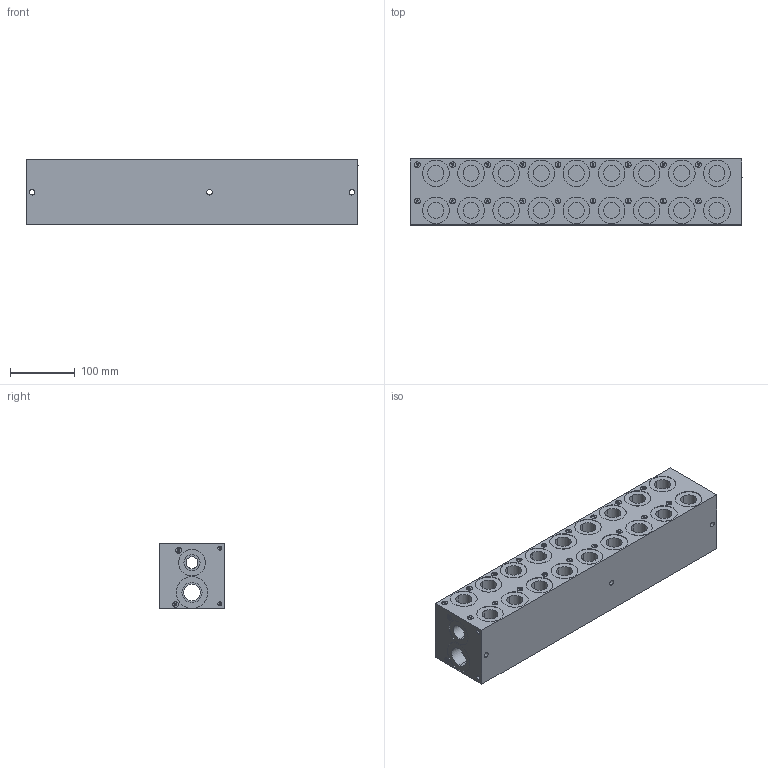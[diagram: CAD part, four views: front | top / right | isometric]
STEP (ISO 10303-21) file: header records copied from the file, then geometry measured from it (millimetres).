
FILE_DESCRIPTION (( 'STEP AP203' ), '1' );
FILE_NAME ('BMR-AHP03S2-09-1_Z.STEP', '2015-01-06T15:25:11', ( '' ), ( '' ), 'SwSTEP 2.0', 'SolidWorks 2014', '' );
FILE_SCHEMA (( 'CONFIG_CONTROL_DESIGN' ));
Length unit declared in the file: inch
Products named in the file (1): BMR-AHP03S2-09-1_Z
Bounding box: 511.3 x 101.6 x 101.6 mm (x, y, z)
Volume: 4643546.1 mm3; surface area: 348783 mm2
Topology: 1 solids, 1 shells, 1083 faces, 2587 edges, 1583 vertices
Faces by surface type: plane 422, cylinder 390, cone 170, bspline 101
Entity records: 35836 total; most frequent: CARTESIAN_POINT 11497, DIRECTION 4961, ORIENTED_EDGE 4834, EDGE_CURVE 2417, AXIS2_PLACEMENT_3D 1763, VERTEX_POINT 1583, VECTOR 1435, LINE 1435
